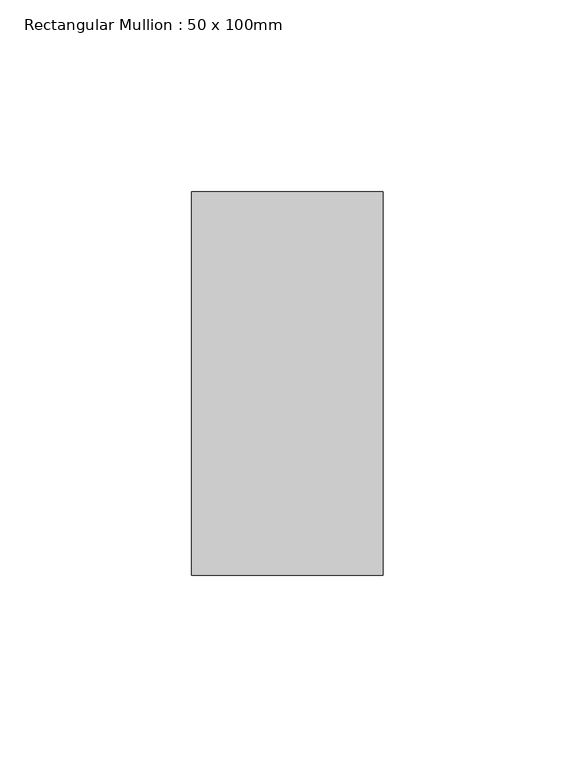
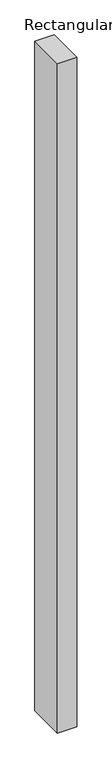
"""IFC4 building model written with IfcOpenShell, lengths in millimetres: member geometry, Rectangular Mullion : 50 x 100mm."""

from ifc_helpers import new_model, si_unit, frame, origin, place, context, project, spatial, polyline, outline, extrude, source, transform, mapped, element, save


def rectangular_mullion_50_x_100mm_6a726e2b(model_context):
    return source(origin(), model_context, "Body", "SweptSolid", [
        extrude(outline(polyline([(0.0, 50.0), (0.0, -50.0), (-50.0, -50.0), (-50.0, 50.0), (0.0, 50.0)])), frame((0.0, 0.0, -1817.1778424), z_axis=(0.0, 0.0, 1.0), x_axis=(1.0, 0.0, 0.0)), (0.0, 0.0, 1.0), 1817.1778424),
    ])


if __name__ == "__main__":
    model = new_model("IFC4")
    model_context = context("Model", 3, world=origin())
    ifc_project = project(units=[si_unit("LENGTHUNIT", "METRE", prefix="MILLI")], contexts=[model_context])
    site = spatial("IfcSite", under=ifc_project)
    building = spatial("IfcBuilding", under=site)
    placement = place(None, origin())
    rectangular_mullion_50_x_100mm_shape = rectangular_mullion_50_x_100mm_6a726e2b(model_context)
    element("IfcMember", 1, ObjectType="Rectangular Mullion : 50 x 100mm", at=placement, inside=building, context=model_context, shape_type="MappedRepresentation", body=[
        mapped(rectangular_mullion_50_x_100mm_shape, transform((0.0, 0.0, 0.0), x_axis=(1.0, 0.0, 0.0), y_axis=(0.0, 1.0, 0.0), z_axis=(0.0, 0.0, 1.0))),
    ])
    save(model, "model.ifc")
